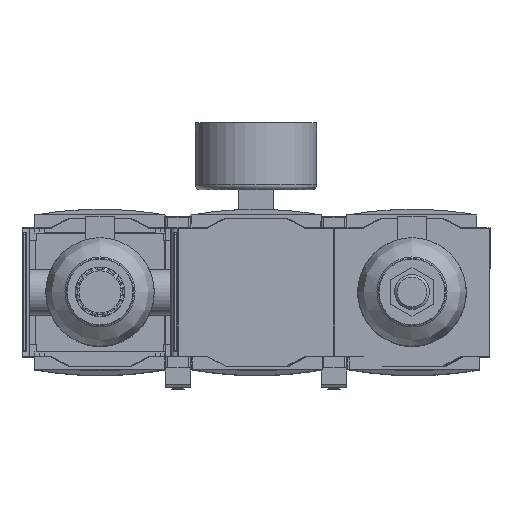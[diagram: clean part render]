
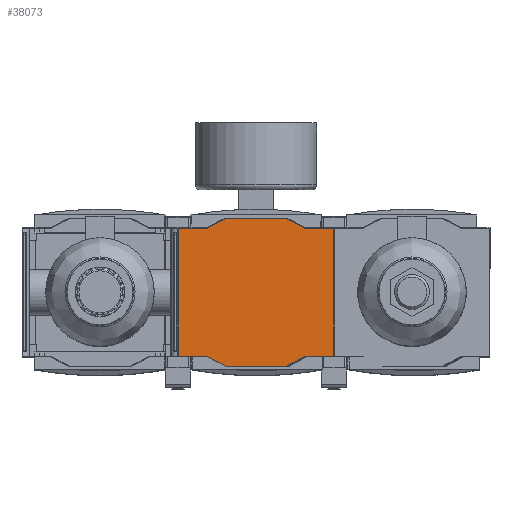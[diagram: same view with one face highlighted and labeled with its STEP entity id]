
A CAD part, top view. The second image highlights one B-rep face of the part: STEP entity #38073.
In plain terms, the highlighted planar face has unit normal (0, 0, 1).
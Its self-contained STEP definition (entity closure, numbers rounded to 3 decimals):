
#37970=CARTESIAN_POINT('',(63.,0.,37.5));
#37971=DIRECTION('',(0.0,0.0,1.0));
#37972=DIRECTION('',(1.0,0.0,0.0));
#37973=AXIS2_PLACEMENT_3D('',#37970,#37971,#37972);
#37974=PLANE('',#37973);
#37975=CARTESIAN_POINT('',(82.937,25.75,37.5));
#37976=VERTEX_POINT('',#37975);
#37977=CARTESIAN_POINT('',(94.25,25.75,37.5));
#37978=VERTEX_POINT('',#37977);
#37979=CARTESIAN_POINT('',(82.937,25.75,37.5));
#37980=DIRECTION('',(1.0,0.0,0.0));
#37981=VECTOR('',#37980,11.312);
#37982=LINE('',#37979,#37981);
#37983=EDGE_CURVE('',#37976,#37978,#37982,.T.);
#37984=ORIENTED_EDGE('',*,*,#37983,.F.);
#37985=CARTESIAN_POINT('',(75.437,29.75,37.5));
#37986=VERTEX_POINT('',#37985);
#37987=CARTESIAN_POINT('',(75.437,29.75,37.5));
#37988=DIRECTION('',(0.882,-0.471,0.0));
#37989=VECTOR('',#37988,8.5);
#37990=LINE('',#37987,#37989);
#37991=EDGE_CURVE('',#37986,#37976,#37990,.T.);
#37992=ORIENTED_EDGE('',*,*,#37991,.F.);
#37993=CARTESIAN_POINT('',(50.562,29.75,37.5));
#37994=VERTEX_POINT('',#37993);
#37995=CARTESIAN_POINT('',(50.562,29.75,37.5));
#37996=DIRECTION('',(1.0,0.0,0.0));
#37997=VECTOR('',#37996,24.875);
#37998=LINE('',#37995,#37997);
#37999=EDGE_CURVE('',#37994,#37986,#37998,.T.);
#38000=ORIENTED_EDGE('',*,*,#37999,.F.);
#38001=CARTESIAN_POINT('',(43.062,25.75,37.5));
#38002=VERTEX_POINT('',#38001);
#38003=CARTESIAN_POINT('',(43.062,25.75,37.5));
#38004=DIRECTION('',(0.882,0.471,0.0));
#38005=VECTOR('',#38004,8.5);
#38006=LINE('',#38003,#38005);
#38007=EDGE_CURVE('',#38002,#37994,#38006,.T.);
#38008=ORIENTED_EDGE('',*,*,#38007,.F.);
#38009=CARTESIAN_POINT('',(31.75,25.75,37.5));
#38010=VERTEX_POINT('',#38009);
#38011=CARTESIAN_POINT('',(31.75,25.75,37.5));
#38012=DIRECTION('',(1.0,0.0,0.0));
#38013=VECTOR('',#38012,11.312);
#38014=LINE('',#38011,#38013);
#38015=EDGE_CURVE('',#38010,#38002,#38014,.T.);
#38016=ORIENTED_EDGE('',*,*,#38015,.F.);
#38017=CARTESIAN_POINT('',(31.75,-25.75,37.5));
#38018=VERTEX_POINT('',#38017);
#38019=CARTESIAN_POINT('',(31.75,-25.75,37.5));
#38020=DIRECTION('',(0.0,1.0,0.0));
#38021=VECTOR('',#38020,51.5);
#38022=LINE('',#38019,#38021);
#38023=EDGE_CURVE('',#38018,#38010,#38022,.T.);
#38024=ORIENTED_EDGE('',*,*,#38023,.F.);
#38025=CARTESIAN_POINT('',(43.063,-25.75,37.5));
#38026=VERTEX_POINT('',#38025);
#38027=CARTESIAN_POINT('',(43.063,-25.75,37.5));
#38028=DIRECTION('',(-1.0,0.0,0.0));
#38029=VECTOR('',#38028,11.313);
#38030=LINE('',#38027,#38029);
#38031=EDGE_CURVE('',#38026,#38018,#38030,.T.);
#38032=ORIENTED_EDGE('',*,*,#38031,.F.);
#38033=CARTESIAN_POINT('',(50.562,-29.75,37.5));
#38034=VERTEX_POINT('',#38033);
#38035=CARTESIAN_POINT('',(50.562,-29.75,37.5));
#38036=DIRECTION('',(-0.882,0.471,0.0));
#38037=VECTOR('',#38036,8.5);
#38038=LINE('',#38035,#38037);
#38039=EDGE_CURVE('',#38034,#38026,#38038,.T.);
#38040=ORIENTED_EDGE('',*,*,#38039,.F.);
#38041=CARTESIAN_POINT('',(75.437,-29.75,37.5));
#38042=VERTEX_POINT('',#38041);
#38043=CARTESIAN_POINT('',(75.437,-29.75,37.5));
#38044=DIRECTION('',(-1.0,0.0,0.0));
#38045=VECTOR('',#38044,24.875);
#38046=LINE('',#38043,#38045);
#38047=EDGE_CURVE('',#38042,#38034,#38046,.T.);
#38048=ORIENTED_EDGE('',*,*,#38047,.F.);
#38049=CARTESIAN_POINT('',(82.937,-25.75,37.5));
#38050=VERTEX_POINT('',#38049);
#38051=CARTESIAN_POINT('',(82.937,-25.75,37.5));
#38052=DIRECTION('',(-0.882,-0.471,0.0));
#38053=VECTOR('',#38052,8.5);
#38054=LINE('',#38051,#38053);
#38055=EDGE_CURVE('',#38050,#38042,#38054,.T.);
#38056=ORIENTED_EDGE('',*,*,#38055,.F.);
#38057=CARTESIAN_POINT('',(94.25,-25.75,37.5));
#38058=VERTEX_POINT('',#38057);
#38059=CARTESIAN_POINT('',(94.25,-25.75,37.5));
#38060=DIRECTION('',(-1.0,0.0,0.0));
#38061=VECTOR('',#38060,11.313);
#38062=LINE('',#38059,#38061);
#38063=EDGE_CURVE('',#38058,#38050,#38062,.T.);
#38064=ORIENTED_EDGE('',*,*,#38063,.F.);
#38065=CARTESIAN_POINT('',(94.25,25.75,37.5));
#38066=DIRECTION('',(0.0,-1.0,0.0));
#38067=VECTOR('',#38066,51.5);
#38068=LINE('',#38065,#38067);
#38069=EDGE_CURVE('',#37978,#38058,#38068,.T.);
#38070=ORIENTED_EDGE('',*,*,#38069,.F.);
#38071=EDGE_LOOP('',(#37984,#37992,#38000,#38008,#38016,#38024,#38032,#38040,#38048,#38056,#38064,#38070));
#38072=FACE_OUTER_BOUND('',#38071,.T.);
#38073=ADVANCED_FACE('',(#38072),#37974,.T.);
